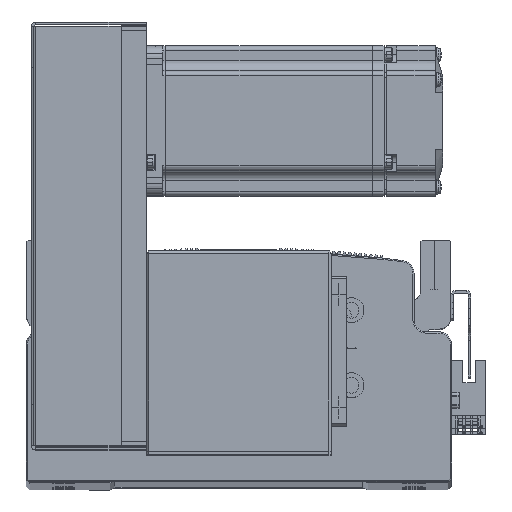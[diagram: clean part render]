
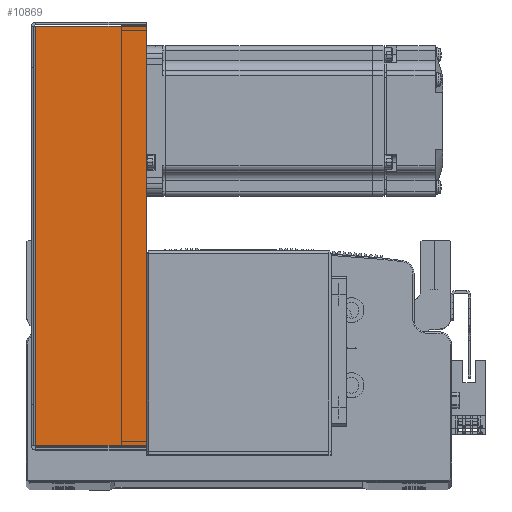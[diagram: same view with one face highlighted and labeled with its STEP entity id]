
A CAD part, top view. The second image highlights one B-rep face of the part: STEP entity #10869.
In plain terms, the highlighted planar face has unit normal (0, 0, 1) as drawn and (0, 0, -1) by its records, which use the part's own axes.
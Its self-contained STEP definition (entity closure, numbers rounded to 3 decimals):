
#825 = DIRECTION ( 'NONE',  ( 0., 1., 0. ) ) ;
#833 = CARTESIAN_POINT ( 'NONE',  ( -83.793, 0., -40.5 ) ) ;
#3560 = LINE ( 'NONE', #833, #3561 ) ;
#3561 = VECTOR ( 'NONE', #825, 1000. ) ;
#10869 = ADVANCED_FACE ( 'NONE', ( #77410 ), #70831, .F. ) ;
#28656 = EDGE_CURVE ( 'NONE', #65631, #65870, #3560, .T. ) ;
#34444 = EDGE_LOOP ( 'NONE', ( #74097, #74051, #74132, #74008 ) ) ;
#65631 = VERTEX_POINT ( 'NONE', #66585 ) ;
#65660 = VERTEX_POINT ( 'NONE', #66637 ) ;
#65864 = VERTEX_POINT ( 'NONE', #66898 ) ;
#65870 = VERTEX_POINT ( 'NONE', #66881 ) ;
#66585 = CARTESIAN_POINT ( 'NONE',  ( -83.793, 0.737, -40.5 ) ) ;
#66637 = CARTESIAN_POINT ( 'NONE',  ( 83.793, 0.737, -40.5 ) ) ;
#66881 = CARTESIAN_POINT ( 'NONE',  ( -83.793, 45., -40.5 ) ) ;
#66898 = CARTESIAN_POINT ( 'NONE',  ( 83.793, 45., -40.5 ) ) ;
#69687 = VECTOR ( 'NONE', #71919, 1000. ) ;
#69733 = LINE ( 'NONE', #71910, #69687 ) ;
#69747 = LINE ( 'NONE', #71946, #69779 ) ;
#69759 = LINE ( 'NONE', #71996, #69806 ) ;
#69779 = VECTOR ( 'NONE', #71937, 1000. ) ;
#69806 = VECTOR ( 'NONE', #72003, 1000. ) ;
#70798 = DIRECTION ( 'NONE',  ( 0., -1., 0. ) ) ;
#70812 = DIRECTION ( 'NONE',  ( 0., 0., 1. ) ) ;
#70823 = CARTESIAN_POINT ( 'NONE',  ( 0., 0., -40.5 ) ) ;
#70831 = PLANE ( 'NONE',  #81731 ) ;
#71910 = CARTESIAN_POINT ( 'NONE',  ( 83.793, 0., -40.5 ) ) ;
#71919 = DIRECTION ( 'NONE',  ( 0., 1., 0. ) ) ;
#71937 = DIRECTION ( 'NONE',  ( 1., 0., 0. ) ) ;
#71946 = CARTESIAN_POINT ( 'NONE',  ( 0., 0.737, -40.5 ) ) ;
#71996 = CARTESIAN_POINT ( 'NONE',  ( 84.5, 45., -40.5 ) ) ;
#72003 = DIRECTION ( 'NONE',  ( 1., 0., 0. ) ) ;
#72343 = EDGE_CURVE ( 'NONE', #65660, #65864, #69733, .T. ) ;
#72415 = EDGE_CURVE ( 'NONE', #65631, #65660, #69747, .T. ) ;
#72450 = EDGE_CURVE ( 'NONE', #65870, #65864, #69759, .T. ) ;
#74008 = ORIENTED_EDGE ( 'NONE', *, *, #72343, .F. ) ;
#74051 = ORIENTED_EDGE ( 'NONE', *, *, #28656, .T. ) ;
#74097 = ORIENTED_EDGE ( 'NONE', *, *, #72415, .F. ) ;
#74132 = ORIENTED_EDGE ( 'NONE', *, *, #72450, .T. ) ;
#77410 = FACE_OUTER_BOUND ( 'NONE', #34444, .T. ) ;
#81731 = AXIS2_PLACEMENT_3D ( 'NONE', #70823, #70812, #70798 ) ;
